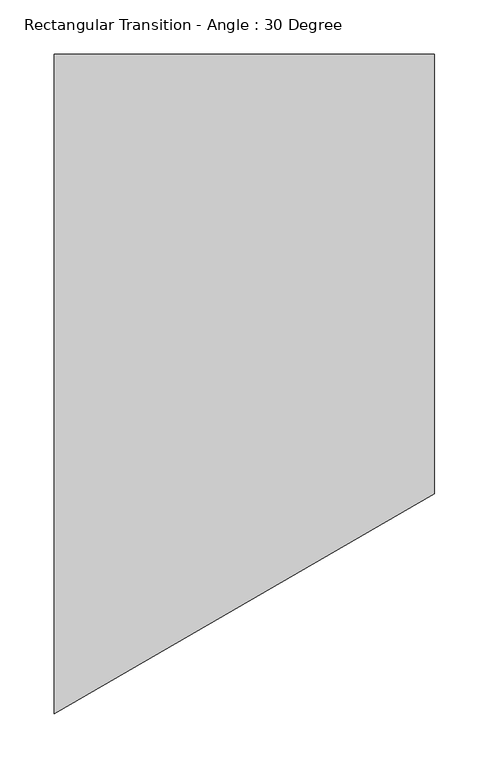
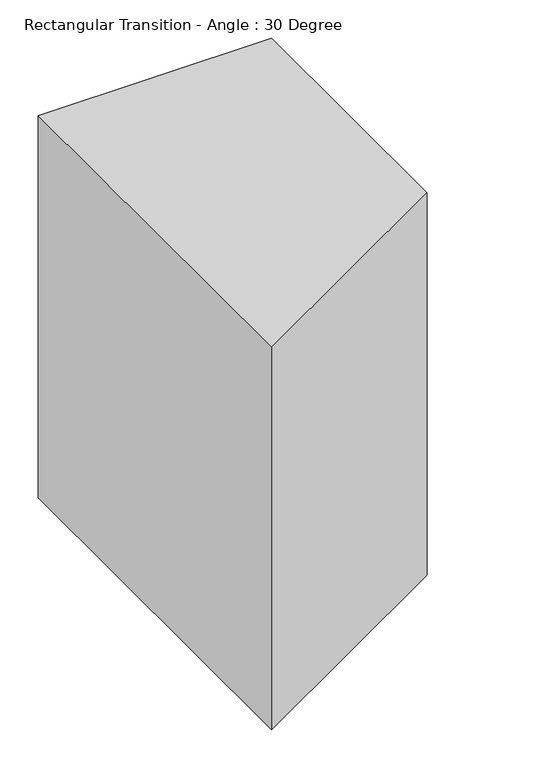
"""IFC4 building model written with IfcOpenShell, lengths in millimetres: duct fitting geometry, Rectangular Transition - Angle : 30 Degree."""

from ifc_helpers import new_model, si_unit, origin, place, context, project, spatial, faceted_brep, source, transform, mapped, element, save


def rectangular_transition_angle_30_degree_c04a8cc3(model_context):
    return source(origin(), model_context, "Body", "Brep", [
        faceted_brep([(351.9527241, -101.6, 304.8000268), (351.9527241, -101.6, -304.7999732), (351.9527241, 304.8, -304.7999732), (351.9527241, 304.8, 304.8000268), (0.0, -304.8, 304.8), (0.0, 304.8, 304.8), (0.0, 304.8, -304.8), (0.0, -304.8, -304.8)], [[[0, 1, 2, 3]], [[4, 5, 6, 7]], [[4, 7, 1, 0]], [[7, 6, 2, 1]], [[6, 5, 3, 2]], [[5, 4, 0, 3]]]),
    ])


if __name__ == "__main__":
    model = new_model("IFC4")
    model_context = context("Model", 3, world=origin())
    ifc_project = project(units=[si_unit("LENGTHUNIT", "METRE", prefix="MILLI")], contexts=[model_context])
    site = spatial("IfcSite", under=ifc_project)
    building = spatial("IfcBuilding", under=site)
    placement = place(None, origin())
    rectangular_transition_angle_30_degree_shape = rectangular_transition_angle_30_degree_c04a8cc3(model_context)
    element("IfcDuctFitting", 1, ObjectType="Rectangular Transition - Angle : 30 Degree", at=placement, inside=building, context=model_context, shape_type="MappedRepresentation", body=[
        mapped(rectangular_transition_angle_30_degree_shape, transform((0.0, 0.0, 0.0), x_axis=(1.0, 0.0, 0.0), y_axis=(0.0, 1.0, 0.0), z_axis=(0.0, 0.0, 1.0))),
    ])
    save(model, "model.ifc")
